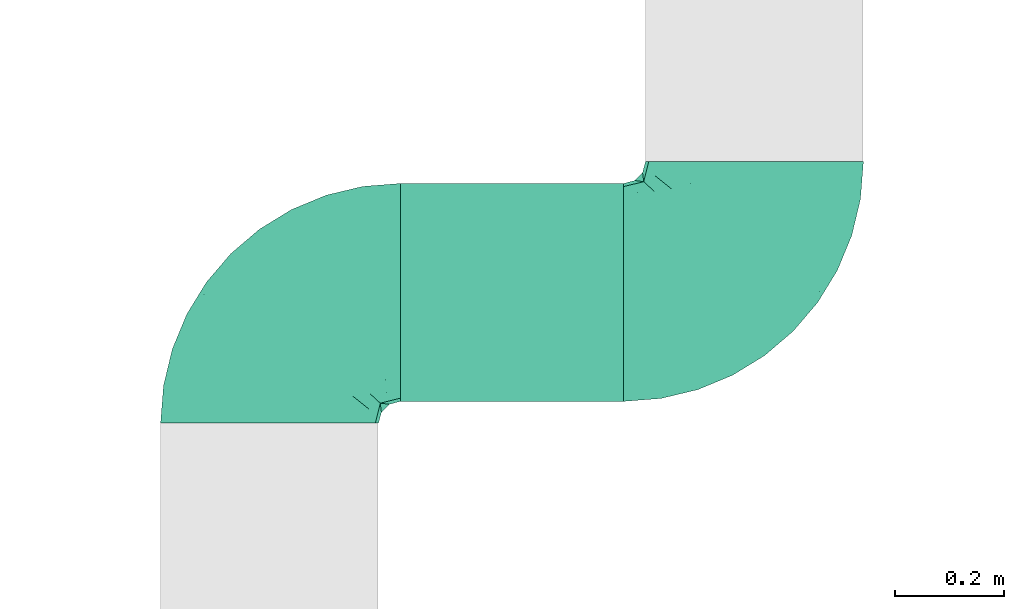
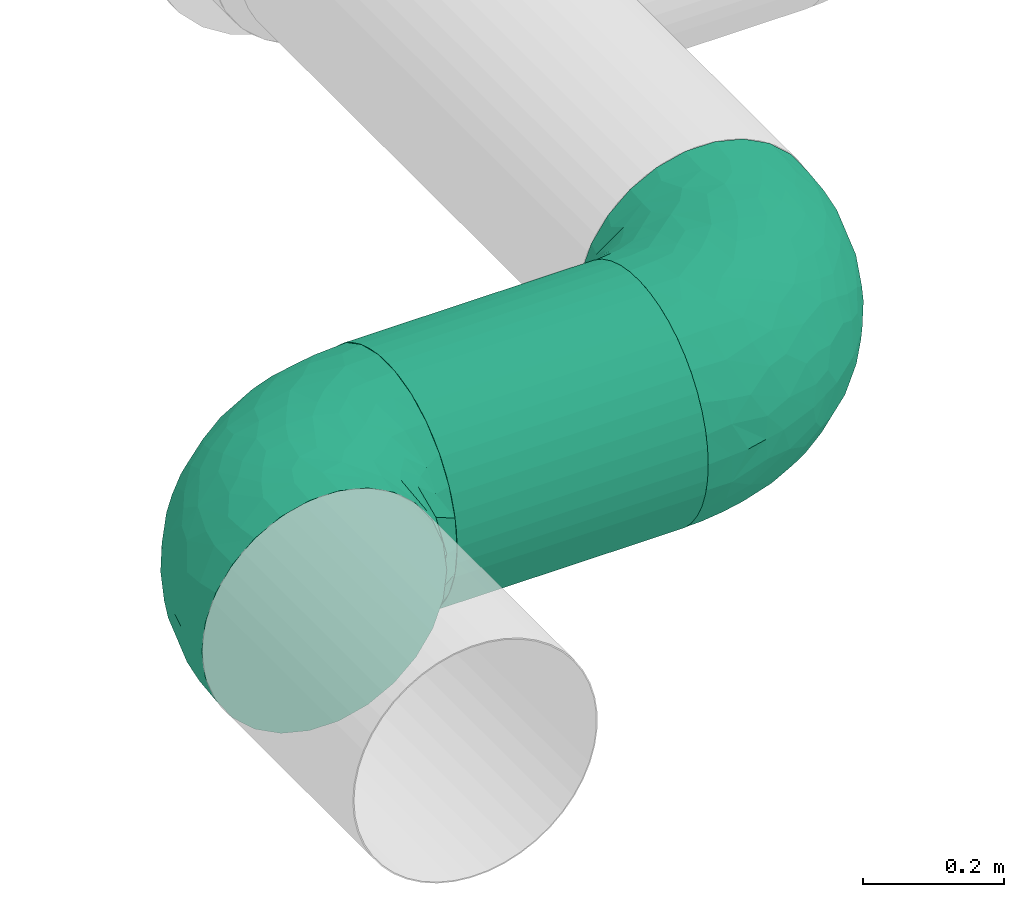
# One storey, part 2 of 16: 2 flow fittings, 1 flow segment.
"""IFC2X3 building model written with IfcOpenShell, lengths in millimetres."""

from ifc_helpers import new_model, entity, si_unit, converted_unit, derived_unit, direction, frame, origin_with_axes, origin_2d_with_axis, place, context, subcontext, project, spatial, hollow_circle, extrude, open_shell, surface_model, source, transform, mapped, type_object, element, save


model = new_model("IFC2X3")

# Units and contexts
model_context = context("Model", 3, precision=0.01, world=frame((0.0, 4.29681676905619e-09, 0.0)), true_north=direction((4.01073788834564e-13, 1.0)))
plan_context = context("Plan", 3, precision=0.01, world=frame((0.0, 4.29681676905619e-09, 0.0)), true_north=direction((4.01073788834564e-13, 1.0)))
body_context = subcontext(model_context, "Body", "Model", "MODEL_VIEW")
ifc_project = project(units=[converted_unit("PLANEANGLEUNIT", "DEGREE", entity("IfcPositiveLengthMeasure", 0.0174532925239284), si_unit("PLANEANGLEUNIT", "RADIAN"), dimensions=[0, 0, 0, 0, 0, 0, 0]), si_unit("AREAUNIT", "SQUARE_METRE"), si_unit("LENGTHUNIT", "METRE", prefix="MILLI"), si_unit("MASSUNIT", "GRAM", prefix="KILO"), si_unit("POWERUNIT", "WATT"), si_unit("PRESSUREUNIT", "PASCAL"), si_unit("FORCEUNIT", "NEWTON", prefix="KILO"), si_unit("ELECTRICVOLTAGEUNIT", "VOLT"), si_unit("ELECTRICCURRENTUNIT", "AMPERE"), si_unit("THERMODYNAMICTEMPERATUREUNIT", "DEGREE_CELSIUS"), si_unit("TIMEUNIT", "SECOND"), si_unit("VOLUMEUNIT", "CUBIC_METRE"), derived_unit("LINEARVELOCITYUNIT", [(si_unit("LENGTHUNIT", "METRE"), 1), (si_unit("TIMEUNIT", "SECOND"), -1)]), derived_unit("VOLUMETRICFLOWRATEUNIT", [(si_unit("VOLUMEUNIT", "CUBIC_METRE"), 1), (si_unit("TIMEUNIT", "SECOND"), -1)]), derived_unit("THERMALTRANSMITTANCEUNIT", [(si_unit("POWERUNIT", "WATT"), 1), (si_unit("THERMODYNAMICTEMPERATUREUNIT", "KELVIN"), -1), (si_unit("AREAUNIT", "SQUARE_METRE"), -1)]), derived_unit("SOUNDPRESSUREUNIT", [(si_unit("PRESSUREUNIT", "PASCAL"), 1)])], contexts=[model_context, plan_context])

# Site, building, storey
site_placement = place(None, frame((0.0, -4.29681676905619e-09, 0.0), z_axis=(0.0, 0.0, 1.0), x_axis=(1.0, 0.0, 0.0)))
site = spatial("IfcSite", under=ifc_project, at=site_placement, Name="ENGM", CompositionType="ELEMENT")
building_placement = place(site_placement, frame((0.0, 4.29681676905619e-09, 0.0), z_axis=(0.0, 0.0, 1.0), x_axis=(1.0, 0.0, 0.0)))
building = spatial("IfcBuilding", under=site, at=building_placement, Name="TH", CompositionType="ELEMENT")
storey_placement = place(building_placement, frame((0.0, 0.0, 210200.0), z_axis=(0.0, 0.0, 1.0), x_axis=(1.0, 0.0, 0.0)))
storey = spatial("IfcBuildingStorey", under=building, at=storey_placement, Name="Nivå F - 0,7 m", CompositionType="ELEMENT", Elevation=210200.0)

# Flow fittings
duct_fitting_type = type_object("IfcDuctFittingType", Name="magicirc_elbow_short_001", PredefinedType="BEND")
shared_shape_1 = source(origin_with_axes(), body_context, "Body", "SurfaceModel", [
    surface_model("IfcShellBasedSurfaceModel", [(-239.99999, 113.61295, -164.59677), (-239.99999, 70.92098, -187.00325), (-239.99999, 24.10734, -198.54177), (-239.99999, -24.10734, -198.54177), (-239.99999, 194.18836, -47.86313), (-239.99999, 177.09121, -92.94464), (-239.99999, 149.70215, -132.62454), (-239.99999, -113.61295, -164.59677), (-239.99999, -70.92098, -187.00325), (-239.99999, -177.09121, -92.94464), (-239.99999, -149.70215, -132.62454), (-239.99999, -194.18836, -47.86313), (-239.99999, -200.0, 0.0), (-239.99999, -194.18836, 47.86313), (-239.99999, 177.09121, 92.94464), (-239.99999, 194.18836, 47.86313), (-239.99999, 200.0, 0.0), (-239.99999, 149.70215, 132.62454), (-239.99999, 70.92098, 187.00325), (-239.99999, 113.61295, 164.59677), (-239.99999, -70.92098, 187.00325), (-239.99999, -177.09121, 92.94464), (-239.99999, -149.70215, 132.62454), (-239.99999, -113.61295, 164.59677), (-239.99999, -24.10734, 198.54177), (-239.99999, 24.10734, 198.54177), (-24.10734, 239.99999, -198.54177), (-70.92098, 239.99999, -187.00325), (-113.61295, 239.99999, -164.59677), (24.10734, 239.99999, -198.54177), (-149.70215, 239.99999, -132.62454), (-177.09121, 239.99999, -92.94464), (-194.18836, 239.99999, -47.86313), (113.61295, 239.99999, -164.59677), (70.92098, 239.99999, -187.00325), (149.70215, 239.99999, -132.62454), (177.09121, 239.99999, -92.94464), (200.0, 239.99999, 0.0), (194.18836, 239.99999, -47.86313), (-149.70215, 239.99999, 132.62454), (-200.0, 239.99999, 0.0), (-194.18836, 239.99999, 47.86313), (-177.09121, 239.99999, 92.94464), (-113.61295, 239.99999, 164.59677), (-70.92098, 239.99999, 187.00325), (70.92098, 239.99999, 187.00325), (194.18836, 239.99999, 47.86313), (149.70215, 239.99999, 132.62454), (177.09121, 239.99999, 92.94464), (-24.10734, 239.99999, 198.54177), (24.10734, 239.99999, 198.54177), (113.61295, 239.99999, 164.59677), (-196.74515, -191.45888, 50.10643), (-198.87111, -196.76308, 0.0), (-171.16884, -194.58287, 0.0), (118.68499, 0.93084, 59.14165), (141.95567, 48.68496, 70.42569), (123.4118, 55.24638, 109.01288), (-85.70027, 147.62752, 190.73627), (-116.87484, 199.98905, 166.67809), (-121.57599, 167.66155, 172.48905), (-104.03252, -178.46487, 0.0), (-133.81508, -183.40912, 37.14199), (-137.60068, -186.52386, 0.0), (-201.76804, 117.34767, 166.01716), (-128.65485, -105.10762, 157.99706), (-129.47583, -133.32898, 133.02573), (-90.82948, -120.56354, 132.05771), (-110.47564, 129.80302, 187.37183), (-147.23793, 149.37929, 166.82178), (-198.00777, -178.92556, 85.02928), (-181.05065, -147.98037, 129.47636), (84.95853, -31.68087, 79.39368), (66.61723, -22.23529, 115.23983), (54.21667, -52.49221, 97.06346), (176.12005, 157.17049, 77.71445), (147.40687, 184.38924, 130.70861), (153.90874, 117.44137, 101.15258), (-69.33459, 15.23806, 195.49424), (-36.72549, -22.35928, 177.63921), (-20.40654, 20.40651, 187.14274), (-126.64829, -42.31033, 189.41022), (-104.09884, -81.44732, 167.69045), (-69.05755, -54.62915, 172.84079), (-214.9062, 183.19872, 91.38192), (-203.2988, 203.2988, 67.96795), (-187.13549, -110.74372, 163.83744), (-211.26398, 68.18149, 188.86771), (-239.99999, 92.26696, 175.80001), (-194.54111, 27.59648, 198.69772), (-147.80543, 100.44984, 186.30111), (-175.61886, 124.09845, 168.70527), (-79.21636, 211.33879, 184.71574), (-25.86028, 189.24323, 199.0048), (-79.14344, -141.09527, 99.22092), (-196.79415, 171.15937, 121.68265), (-212.86991, 160.76197, 124.84847), (-181.52635, 152.02087, 148.14517), (-220.0, 205.35898, 0.0), (-58.83625, -88.4167, 147.49907), (116.2234, 203.42657, 161.41048), (92.26696, 239.99999, 175.80001), (-185.4702, -22.63651, 197.99654), (-204.01547, -62.89384, 189.1346), (-24.52781, 97.11682, 199.13864), (-49.56556, 133.39657, 198.81296), (-66.10533, 98.39351, 199.37953), (-30.34629, -106.37956, 113.19134), (104.82391, 25.53207, 111.43528), (-119.98345, 72.61455, 197.08288), (-156.96377, 218.9078, 127.21335), (167.12312, 87.64148, 45.74593), (183.40912, 133.81509, 37.14199), (-184.13653, 185.68974, 117.1648), (-182.96856, 214.56254, 92.05973), (191.45888, 196.74515, 50.10643), (144.4228, 31.67779, 33.1102), (68.61526, 186.05131, 186.08553), (196.76308, 198.87111, 0.0), (-19.07525, -59.99967, 149.75146), (178.92556, 198.00777, 85.02928), (140.24497, 148.7445, 131.09665), (-93.34475, -18.2887, 191.69958), (-89.08881, -167.97458, 44.47905), (-114.00758, -154.66645, 98.09796), (-157.17049, -176.12005, 77.71445), (101.17001, -31.2323, 40.53831), (-205.35898, 220.0, 0.0), (7.2216, -25.18453, 158.0566), (16.22747, 11.57272, 171.27795), (-156.86281, -75.63418, 180.37489), (18.26134, -72.60936, 112.30535), (13.4342, -107.2345, 62.80026), (53.58983, -73.10403, 64.77726), (-40.69961, 60.20079, 197.97069), (45.72355, -4.38833, 146.65771), (35.15394, -40.42218, 128.96113), (91.28472, 129.3674, 167.51176), (115.08937, 167.12808, 158.1021), (20.79364, 191.2804, 198.39263), (7.78123, 161.36163, 199.00144), (53.70139, 155.02142, 188.88407), (-67.67034, 172.21058, 192.34122), (-15.98162, 141.15738, 199.94107), (-131.31539, 13.75994, 199.69771), (-145.52939, 50.31948, 198.01673), (-164.75662, 31.5409, 199.15392), (-44.77019, -139.99156, 70.37377), (-164.49132, 172.1255, 144.31316), (45.64327, 86.35853, 181.34613), (66.68327, 112.12605, 177.44128), (34.93762, 125.81661, 191.49433), (120.56354, 90.82948, 132.05771), (-182.60457, 70.05037, 190.59169), (-106.26477, 37.23407, 199.97902), (5.4685, 57.21701, 188.77996), (12.62248, 97.22487, 193.6033), (141.56856, 81.82745, 100.26224), (178.46487, 104.03252, 0.0), (115.96748, -18.62551, 0.0), (134.00517, 10.80933, 0.0), (-159.14819, -4.40914, 199.23858), (75.84299, 19.7026, 137.66396), (92.95751, 47.882, 138.36956), (73.90408, 68.31014, 161.63441), (48.01825, 36.91836, 165.41694), (-152.35849, 189.99394, 143.7092), (-72.13835, -165.25387, 0.0), (-40.24418, -152.04287, 0.0), (-31.59765, -144.44013, 32.79038), (186.52386, 137.60068, 0.0), (194.58287, 171.16884, 0.0), (152.04287, 40.24418, 0.0), (165.25387, 72.13835, 0.0), (-1.76483, -126.08287, 35.7698), (-16.01194, -123.42514, 71.17763), (44.87625, -93.54723, 0.0), (18.62551, -115.96748, 0.0), (-82.84412, 62.85893, 199.97449), (78.64369, -54.27256, 49.64799), (93.54723, -44.87625, 0.0), (-10.80933, -134.00517, 0.0), (71.12699, -71.12699, 0.0), (-218.90782, 156.96377, -127.21335), (-199.98905, 116.87483, -166.67809), (58.90217, -68.82574, -63.09789), (15.32875, -106.16168, -62.0215), (-129.36742, -91.28472, -167.51176), (-167.12808, -115.08937, -158.1021), (-186.05131, -68.61526, -186.08553), (-94.46882, 110.90985, -194.76362), (-129.80304, 110.47563, -187.37183), (-141.77172, 147.59985, -170.13255), (-87.64149, -167.12312, -45.74594), (-48.68496, -141.95568, -70.4257), (-31.67779, -144.4228, -33.1102), (-203.2988, 203.2988, -67.96795), (22.96639, 35.57124, -177.01997), (-14.27814, 70.09048, -195.42708), (18.69405, 93.38622, -191.6005), (-13.86258, -127.36078, -58.07066), (-29.4902, -107.8813, -110.63198), (-68.18149, 211.26398, -188.86771), (-117.34767, 201.76804, -166.01716), (-59.10875, 32.13092, -196.81402), (-97.11686, 24.52781, -199.13864), (-90.55645, 60.71595, -199.89111), (-214.9062, 183.19872, -91.38192), (54.62914, 69.05754, -172.84079), (98.27175, 42.78711, -130.49521), (57.08047, 11.2084, -147.59111), (-184.90419, 185.92532, -116.17097), (-189.99394, 152.35849, -143.7092), (-164.74539, 127.39507, -170.48912), (-196.74515, -191.45888, -50.10643), (102.97814, -25.2107, -50.35981), (-198.00777, -178.92556, -85.02928), (-184.38924, -147.40686, -130.70861), (-20.40654, 20.40651, -187.14274), (-203.42657, -116.2234, -161.41048), (-133.81508, -183.40912, -37.14199), (-157.17049, -176.12005, -77.71445), (-117.44137, -153.90874, -101.15258), (42.31034, 126.64827, -189.4102), (81.44732, 104.09882, -167.69045), (-191.2804, -20.79363, -198.39265), (147.98037, 181.05063, -129.47636), (-129.30436, 59.74472, -197.96346), (-155.13308, 92.66755, -187.36009), (154.66645, 114.00757, -98.09796), (176.12005, 157.17049, -77.71445), (-148.74451, -140.24497, -131.09665), (-160.49961, 212.94523, -125.12823), (-152.02087, 181.52635, -148.14517), (2.79291, -30.76889, -157.17157), (62.89384, 204.01545, -189.1346), (22.63653, 185.4702, -197.99654), (-189.24323, 25.86027, -199.0048), (-27.59649, 194.54111, -198.69772), (-100.44985, 147.80542, -186.30109), (-124.09845, 175.61886, -168.70527), (-182.99884, 214.60769, -91.9709), (110.74372, 187.13549, -163.83744), (-239.99999, -92.26696, -175.80001), (-211.33879, 79.21636, -184.71574), (75.63418, 156.86279, -180.37489), (133.32898, 129.47581, -133.02572), (120.56354, 90.82948, -132.05771), (105.10762, 128.65484, -157.99704), (82.80118, -53.88605, -37.02608), (-92.26696, 239.99999, -175.80001), (123.66564, 51.80383, -106.19757), (139.99155, 44.77018, -70.37377), (117.64841, 16.01817, -82.9314), (128.17291, 6.73281, -40.53314), (178.92556, 198.00777, -85.02928), (183.40912, 133.81509, -37.14199), (167.97458, 89.08881, -44.47905), (191.45888, 196.74515, -50.10643), (142.54299, 78.96912, -96.72635), (-97.56993, -63.71257, -175.75275), (-84.70609, -93.55722, -153.72859), (-144.36304, 26.22191, -199.91576), (-172.21058, 67.67033, -192.34122), (-156.61609, -52.11749, -189.55589), (34.63275, -16.71165, -146.7065), (52.55983, -35.0498, -117.90292), (-36.70515, 165.46479, -198.61787), (-70.05038, 182.60455, -190.59169), (154.76241, 55.00565, -40.00078), (-90.82948, -120.56354, -132.05771), (-57.62963, 136.50036, -197.69037), (-51.22094, -22.77128, -181.71122), (-155.33763, -3.83571, -199.17789), (-81.82746, -141.56857, -100.26224), (-58.13237, -124.31837, -109.76109), (3.06481, 160.45807, -199.37898), (-125.81663, -34.93761, -191.49434), (-87.32259, -32.20055, -186.55362), (-114.50768, -4.03185, -197.01795), (-57.25678, -70.84455, -159.56181), (-14.82192, -65.35197, -143.41341), (-13.75995, 131.31536, -199.69771), (-168.83955, 164.28561, -146.55529), (18.26134, -72.60936, -112.30535), (79.70862, -39.92682, -76.14325), (90.8179, -6.60485, -101.00831), (-32.52854, 105.18753, -199.86215), (-62.85894, 82.8441, -199.97449)], [open_shell([[[0, 1, 2]], [[0, 2, 3]], [[4, 5, 6]], [[7, 6, 0]], [[6, 7, 4]], [[8, 7, 3]], [[7, 0, 3]], [[9, 7, 10]], [[9, 11, 12]], [[4, 7, 9]], [[9, 12, 4]], [[12, 13, 4]], [[14, 15, 16]], [[17, 14, 16]], [[18, 19, 17]], [[13, 17, 16]], [[18, 17, 20]], [[21, 22, 13]], [[23, 13, 22]], [[20, 24, 25]], [[20, 13, 23]], [[20, 17, 13]], [[20, 25, 18]], [[4, 13, 16]], [[26, 27, 28]], [[29, 26, 28]], [[30, 31, 32]], [[28, 30, 33]], [[32, 33, 30]], [[29, 33, 34]], [[29, 28, 33]], [[35, 33, 36]], [[37, 38, 36]], [[36, 33, 32]], [[32, 37, 36]], [[32, 39, 37]], [[40, 41, 42]], [[40, 42, 39]], [[39, 43, 44]], [[45, 37, 39]], [[45, 39, 44]], [[46, 47, 48]], [[46, 37, 47]], [[49, 50, 45]], [[37, 51, 47]], [[45, 51, 37]], [[44, 49, 45]], [[39, 32, 40]], [[52, 53, 54]], [[55, 56, 57]], [[58, 59, 60]], [[52, 13, 53]], [[61, 62, 63]], [[19, 64, 17]], [[65, 66, 67]], [[68, 60, 69]], [[21, 70, 22]], [[70, 71, 22]], [[72, 73, 74]], [[22, 71, 23]], [[75, 76, 77]], [[13, 52, 21]], [[78, 79, 80]], [[81, 82, 83]], [[15, 84, 85]], [[20, 23, 86]], [[87, 88, 18]], [[25, 89, 18]], [[64, 90, 91]], [[92, 93, 44]], [[23, 71, 86]], [[66, 94, 67]], [[19, 87, 64]], [[95, 96, 97]], [[85, 16, 15]], [[16, 85, 98]], [[82, 99, 83]], [[100, 51, 101]], [[89, 25, 102]], [[20, 103, 24]], [[14, 84, 15]], [[104, 105, 106]], [[67, 94, 107]], [[55, 108, 72]], [[109, 68, 90]], [[110, 39, 42]], [[75, 111, 112]], [[113, 114, 85]], [[112, 115, 75]], [[116, 111, 56]], [[47, 51, 76]], [[45, 117, 100]], [[115, 118, 46]], [[99, 119, 83]], [[120, 47, 76]], [[115, 46, 48]], [[76, 100, 121]], [[100, 76, 51]], [[79, 78, 122]], [[59, 92, 43]], [[123, 124, 125]], [[72, 126, 55]], [[103, 102, 24]], [[40, 85, 41]], [[85, 40, 127]], [[85, 127, 98]], [[44, 93, 49]], [[45, 50, 117]], [[128, 129, 80]], [[85, 84, 113]], [[130, 81, 102]], [[59, 39, 110]], [[131, 132, 133]], [[106, 134, 104]], [[39, 59, 43]], [[41, 85, 114]], [[135, 128, 136]], [[137, 138, 117]], [[139, 117, 50]], [[24, 102, 25]], [[139, 140, 141]], [[92, 44, 43]], [[124, 71, 125]], [[142, 105, 143]], [[67, 82, 65]], [[130, 82, 81]], [[144, 145, 146]], [[58, 60, 68]], [[92, 59, 142]], [[125, 62, 123]], [[123, 147, 94]], [[148, 113, 95]], [[107, 132, 131]], [[50, 49, 139]], [[149, 150, 151]], [[121, 152, 77]], [[120, 76, 75]], [[90, 64, 153]], [[64, 91, 96]], [[154, 145, 144]], [[90, 68, 69]], [[154, 144, 122]], [[80, 129, 155]], [[104, 156, 143]], [[104, 143, 105]], [[157, 77, 152]], [[112, 111, 158]], [[57, 56, 157]], [[55, 159, 160]], [[71, 124, 66]], [[103, 86, 130]], [[146, 161, 144]], [[19, 88, 87]], [[49, 93, 139]], [[93, 143, 140]], [[138, 137, 152]], [[108, 162, 73]], [[162, 163, 164]], [[79, 128, 80]], [[156, 104, 155]], [[164, 165, 162]], [[150, 141, 151]], [[164, 152, 137]], [[122, 81, 83]], [[81, 122, 161]], [[96, 84, 14]], [[96, 95, 84]], [[148, 97, 69]], [[166, 110, 114]], [[166, 114, 113]], [[41, 114, 42]], [[14, 17, 96]], [[64, 96, 17]], [[52, 54, 63]], [[70, 21, 52]], [[62, 61, 123]], [[63, 62, 52]], [[52, 62, 125]], [[123, 61, 167]], [[123, 168, 169]], [[48, 120, 115]], [[115, 170, 171]], [[115, 112, 170]], [[158, 170, 112]], [[111, 75, 77]], [[111, 77, 157]], [[111, 172, 173]], [[65, 82, 130]], [[99, 67, 107]], [[169, 174, 175]], [[119, 99, 107]], [[175, 147, 169]], [[132, 176, 133]], [[174, 177, 132]], [[116, 160, 172]], [[67, 99, 82]], [[119, 107, 131]], [[136, 128, 119]], [[79, 83, 119]], [[128, 79, 119]], [[134, 78, 80]], [[154, 78, 178]], [[144, 161, 122]], [[136, 119, 131]], [[128, 135, 129]], [[74, 131, 133]], [[73, 135, 136]], [[74, 73, 136]], [[108, 73, 72]], [[131, 74, 136]], [[74, 133, 179]], [[135, 165, 129]], [[155, 104, 134]], [[165, 155, 129]], [[149, 165, 164]], [[162, 165, 135]], [[149, 151, 156]], [[73, 162, 135]], [[162, 108, 163]], [[149, 155, 165]], [[139, 93, 140]], [[151, 143, 156]], [[142, 143, 93]], [[149, 156, 155]], [[150, 164, 137]], [[164, 150, 149]], [[141, 137, 117]], [[137, 141, 150]], [[139, 141, 117]], [[142, 58, 105]], [[106, 178, 134]], [[58, 106, 105]], [[68, 178, 106]], [[59, 58, 142]], [[106, 58, 68]], [[59, 166, 60]], [[166, 113, 148]], [[166, 69, 60]], [[69, 97, 91]], [[78, 134, 178]], [[155, 134, 80]], [[130, 86, 65]], [[66, 124, 94]], [[65, 86, 66]], [[71, 66, 86]], [[72, 179, 126]], [[111, 116, 172]], [[79, 122, 83]], [[154, 122, 78]], [[52, 125, 70]], [[70, 125, 71]], [[47, 120, 48]], [[75, 115, 120]], [[57, 163, 108]], [[152, 164, 163]], [[143, 151, 140]], [[141, 140, 151]], [[178, 109, 154]], [[145, 90, 153]], [[145, 154, 109]], [[153, 87, 146]], [[68, 109, 178]], [[145, 109, 90]], [[153, 146, 145]], [[161, 89, 102]], [[89, 161, 146]], [[81, 161, 102]], [[179, 180, 126]], [[55, 126, 159]], [[55, 160, 116]], [[55, 116, 56]], [[13, 12, 53]], [[118, 115, 171]], [[118, 37, 46]], [[93, 92, 142]], [[86, 103, 20]], [[102, 103, 130]], [[114, 110, 42]], [[59, 110, 166]], [[100, 117, 138]], [[45, 100, 101]], [[100, 138, 121]], [[153, 64, 87]], [[18, 89, 87]], [[146, 87, 89]], [[123, 94, 124]], [[107, 94, 147]], [[169, 168, 181]], [[174, 169, 181]], [[123, 169, 147]], [[177, 174, 181]], [[174, 132, 175]], [[132, 107, 175]], [[107, 147, 175]], [[69, 91, 90]], [[96, 91, 97]], [[152, 121, 138]], [[77, 76, 121]], [[57, 157, 152]], [[111, 157, 56]], [[163, 57, 152]], [[57, 108, 55]], [[148, 95, 97]], [[84, 95, 113]], [[176, 132, 177]], [[168, 123, 167]], [[173, 158, 111]], [[176, 182, 133]], [[69, 166, 148]], [[72, 74, 179]], [[159, 126, 180]], [[133, 182, 179]], [[180, 179, 182]], [[183, 184, 6]], [[185, 176, 186]], [[187, 188, 189]], [[190, 191, 192]], [[193, 194, 195]], [[183, 6, 5]], [[98, 196, 16]], [[197, 198, 199]], [[186, 200, 201]], [[202, 203, 28]], [[196, 4, 16]], [[204, 205, 206]], [[6, 184, 0]], [[207, 5, 4]], [[208, 209, 210]], [[211, 212, 207]], [[38, 37, 118]], [[191, 213, 192]], [[214, 53, 11]], [[215, 159, 180]], [[11, 9, 214]], [[28, 203, 30]], [[216, 10, 217]], [[198, 197, 218]], [[8, 189, 219]], [[7, 219, 217]], [[220, 214, 221]], [[220, 221, 193]], [[221, 217, 222]], [[223, 224, 208]], [[189, 3, 225]], [[217, 10, 7]], [[35, 226, 33]], [[191, 227, 228]], [[196, 98, 127]], [[229, 226, 230]], [[40, 32, 196]], [[217, 219, 231]], [[211, 232, 233]], [[234, 218, 197]], [[235, 236, 29]], [[196, 207, 4]], [[1, 237, 2]], [[236, 238, 26]], [[203, 239, 240]], [[31, 241, 32]], [[33, 226, 242]], [[34, 235, 29]], [[219, 7, 243]], [[0, 244, 1]], [[245, 223, 236]], [[26, 238, 27]], [[29, 236, 26]], [[33, 242, 34]], [[246, 247, 248]], [[182, 249, 180]], [[202, 250, 27]], [[251, 252, 253]], [[215, 254, 159]], [[244, 237, 1]], [[255, 35, 36]], [[255, 226, 35]], [[170, 158, 256]], [[257, 229, 230]], [[118, 171, 258]], [[38, 118, 258]], [[251, 259, 252]], [[206, 205, 227]], [[8, 3, 189]], [[36, 38, 258]], [[187, 260, 261]], [[211, 241, 232]], [[262, 237, 263]], [[40, 196, 127]], [[264, 189, 225]], [[265, 210, 266]], [[247, 224, 248]], [[245, 224, 223]], [[267, 268, 202]], [[228, 213, 191]], [[244, 184, 263]], [[230, 256, 257]], [[269, 259, 257]], [[269, 160, 254]], [[253, 209, 251]], [[3, 2, 225]], [[188, 187, 270]], [[231, 270, 222]], [[216, 217, 221]], [[239, 203, 268]], [[203, 240, 232]], [[268, 267, 271]], [[190, 192, 239]], [[271, 239, 268]], [[272, 218, 234]], [[262, 273, 237]], [[205, 262, 227]], [[274, 222, 270]], [[220, 193, 61]], [[274, 275, 194]], [[195, 200, 181]], [[226, 229, 246]], [[235, 242, 245]], [[276, 238, 236]], [[28, 250, 202]], [[2, 237, 225]], [[225, 237, 273]], [[264, 187, 189]], [[260, 277, 278]], [[278, 279, 205]], [[280, 281, 201]], [[199, 223, 208]], [[276, 223, 282]], [[211, 207, 196]], [[183, 207, 212]], [[241, 211, 196]], [[211, 233, 283]], [[32, 241, 196]], [[241, 31, 232]], [[31, 30, 232]], [[203, 232, 30]], [[9, 216, 214]], [[214, 63, 54]], [[214, 220, 63]], [[61, 63, 220]], [[193, 221, 222]], [[193, 222, 274]], [[193, 168, 167]], [[258, 171, 170]], [[255, 36, 258]], [[256, 158, 257]], [[170, 256, 258]], [[258, 256, 230]], [[257, 158, 173]], [[257, 173, 269]], [[275, 261, 201]], [[186, 201, 284]], [[186, 284, 185]], [[193, 195, 168]], [[266, 185, 284]], [[249, 182, 185]], [[248, 224, 245]], [[209, 224, 247]], [[249, 285, 215]], [[249, 215, 180]], [[254, 253, 252]], [[253, 215, 286]], [[254, 252, 269]], [[215, 253, 254]], [[253, 286, 209]], [[210, 209, 286]], [[224, 209, 208]], [[266, 210, 286]], [[197, 208, 210]], [[209, 247, 251]], [[247, 246, 259]], [[247, 259, 251]], [[257, 259, 229]], [[266, 286, 285]], [[266, 284, 234]], [[284, 281, 234]], [[234, 281, 272]], [[279, 278, 277]], [[204, 272, 205]], [[245, 242, 248]], [[160, 159, 254]], [[246, 229, 259]], [[248, 242, 246]], [[226, 246, 242]], [[197, 210, 265]], [[204, 198, 218]], [[287, 288, 271]], [[282, 223, 199]], [[197, 199, 208]], [[199, 198, 287]], [[10, 216, 9]], [[221, 214, 216]], [[258, 230, 255]], [[255, 230, 226]], [[227, 262, 263]], [[279, 262, 205]], [[228, 227, 263]], [[191, 190, 206]], [[191, 206, 227]], [[288, 198, 204]], [[288, 204, 206]], [[272, 204, 218]], [[263, 184, 228]], [[213, 184, 212]], [[184, 213, 228]], [[192, 283, 233]], [[283, 213, 212]], [[192, 233, 240]], [[213, 283, 192]], [[211, 283, 212]], [[278, 205, 272]], [[273, 279, 277]], [[272, 280, 278]], [[260, 278, 280]], [[261, 260, 280]], [[264, 260, 187]], [[201, 261, 280]], [[187, 261, 270]], [[279, 273, 262]], [[273, 277, 264]], [[53, 214, 54]], [[53, 12, 11]], [[184, 244, 0]], [[237, 244, 263]], [[242, 235, 34]], [[236, 235, 245]], [[207, 183, 5]], [[184, 183, 212]], [[219, 189, 188]], [[231, 219, 188]], [[8, 219, 243]], [[268, 203, 202]], [[27, 238, 202]], [[267, 202, 238]], [[287, 271, 282]], [[190, 271, 288]], [[192, 240, 239]], [[232, 240, 233]], [[271, 190, 239]], [[206, 190, 288]], [[270, 231, 188]], [[222, 217, 231]], [[275, 274, 270]], [[193, 274, 194]], [[261, 275, 270]], [[275, 201, 200]], [[200, 177, 181]], [[181, 168, 195]], [[200, 195, 194]], [[200, 194, 275]], [[200, 186, 177]], [[223, 276, 236]], [[267, 276, 282]], [[276, 267, 238]], [[271, 267, 282]], [[273, 264, 225]], [[264, 277, 260]], [[269, 172, 160]], [[167, 61, 193]], [[269, 173, 172]], [[259, 269, 252]], [[176, 185, 182]], [[176, 177, 186]], [[285, 249, 185]], [[266, 285, 185]], [[286, 215, 285]], [[266, 234, 265]], [[197, 265, 234]], [[201, 281, 284]], [[272, 281, 280]], [[199, 287, 282]], [[288, 287, 198]]])]),
])
for number, where, z_axis, x_axis, name in (
    (1, (896556.49216, 481703.92473, 2677.79999999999), (4.89999999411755e-05, 0.0, 0.9999999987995), (0.9999999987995, 0.0, -4.89999999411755e-05), "magicirc_elbow_short_001"),
    (2, (895666.49216, 481703.92473, 2677.85378999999), (5.3999999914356e-05, -1.5999999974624e-05, 0.999999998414), (-0.999999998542, -7.99999996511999e-11, 5.3999999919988e-05), "magicirc_elbow_short_001"),
):
    element("IfcFlowFitting", number, at=place(storey_placement, frame(where, z_axis=z_axis, x_axis=x_axis)), inside=storey, type_object=duct_fitting_type, Name=name, context=body_context, shape_type="MappedRepresentation", body=[
        mapped(shared_shape_1, transform((0.0, 0.0, 0.0), scale=1.0)),
    ])

# Flow segment
duct_segment_type = type_object("IfcDuctSegmentType", Name="2 - Spiro kanaler, Forsinket stål", PredefinedType="RIGIDSEGMENT")
shared_shape_2 = source(origin_with_axes(), body_context, "Body", "SweptSolid", [
    extrude(hollow_circle(Radius=200.0, WallThickness=2.0, at=origin_2d_with_axis()), frame((0.0, 0.0, 0.0), z_axis=(1.0, 0.0, 0.0), x_axis=(0.0, 1.0, 0.0)), (0.0, 0.0, 1.0), 410.0),
])
flow_segment_placement = place(storey_placement, frame((896316.49216, 481703.92473, 2677.81299999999), z_axis=(5.89999998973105e-05, 0.0, 0.9999999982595), x_axis=(-0.9999999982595, 0.0, 5.89999998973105e-05)))
element("IfcFlowSegment", 3, at=flow_segment_placement, inside=storey, type_object=duct_segment_type, Name="2 - Spiro kanaler, Forsinket stål", context=body_context, shape_type="MappedRepresentation", body=[
    mapped(shared_shape_2, transform((0.0, 0.0, 0.0), scale=1.0)),
])

save(model, "model.ifc")
